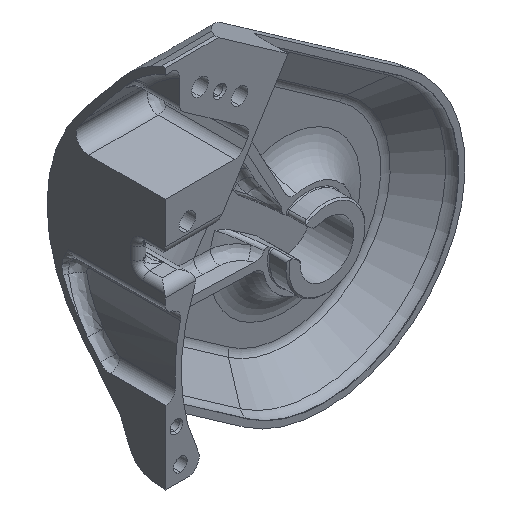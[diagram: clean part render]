
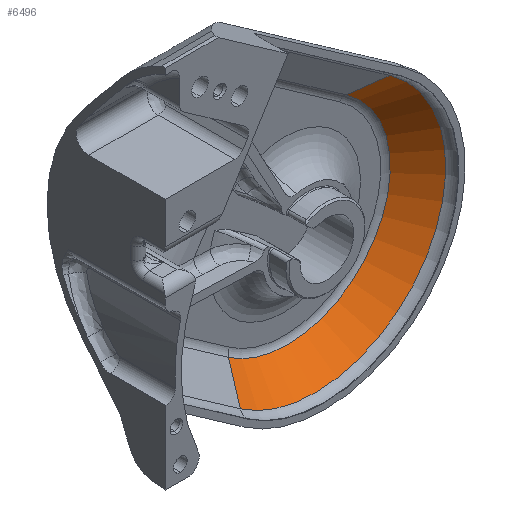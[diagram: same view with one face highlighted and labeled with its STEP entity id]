
A CAD part, isometric view. The second image highlights one B-rep face of the part: STEP entity #6496.
In plain terms, the highlighted conical face has half-angle 45 degrees and reference radius 36.914 mm.
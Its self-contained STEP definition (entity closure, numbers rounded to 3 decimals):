
#1950=CARTESIAN_POINT('',(126.,40.093,-94.));
#1951=DIRECTION('',(0.,-1.,0.));
#1952=DIRECTION('',(-0.574,0.,-0.819));
#1953=AXIS2_PLACEMENT_3D('',#1950,#1951,#1952);
#1955=CARTESIAN_POINT('',(126.,40.093,-94.));
#1956=DIRECTION('',(0.,-1.,0.));
#1957=DIRECTION('',(0.,0.,-1.));
#1958=AXIS2_PLACEMENT_3D('',#1955,#1956,#1957);
#2130=DIRECTION('',(0.406,0.707,0.579));
#2131=VECTOR('',#2130,12.414);
#2132=CARTESIAN_POINT('',(102.309,40.093,-127.834));
#2133=LINE('',#2132,#2131);
#2134=DIRECTION('',(0.406,-0.707,0.579));
#2135=VECTOR('',#2134,12.414);
#2136=CARTESIAN_POINT('',(144.656,48.871,-67.357));
#2137=LINE('',#2136,#2135);
#2365=CARTESIAN_POINT('',(126.,48.871,-94.));
#2366=DIRECTION('',(0.,1.,0.));
#2367=DIRECTION('',(0.574,0.,0.819));
#2368=AXIS2_PLACEMENT_3D('',#2365,#2366,#2367);
#2370=CARTESIAN_POINT('',(126.,48.871,-94.));
#2371=DIRECTION('',(0.,1.,0.));
#2372=DIRECTION('',(0.,0.,-1.));
#2373=AXIS2_PLACEMENT_3D('',#2370,#2371,#2372);
#3887=CARTESIAN_POINT('',(144.656,48.871,-67.357));
#3888=CARTESIAN_POINT('',(149.691,40.093,-60.166));
#3889=VERTEX_POINT('',#3887);
#3890=VERTEX_POINT('',#3888);
#3896=CARTESIAN_POINT('',(102.309,40.093,-127.834));
#3897=CARTESIAN_POINT('',(107.344,48.871,-120.643));
#3898=VERTEX_POINT('',#3896);
#3899=VERTEX_POINT('',#3897);
#3900=CARTESIAN_POINT('',(126.,48.871,-126.525));
#3901=VERTEX_POINT('',#3900);
#3902=CARTESIAN_POINT('',(126.,40.093,-135.303));
#3903=VERTEX_POINT('',#3902);
#6480=CARTESIAN_POINT('',(126.,44.482,-94.));
#6481=DIRECTION('',(0.,-1.,0.));
#6482=DIRECTION('',(0.,0.,-1.));
#6483=AXIS2_PLACEMENT_3D('',#6480,#6481,#6482);
#6484=CONICAL_SURFACE('',#6483,36.914,45.);
#6486=ORIENTED_EDGE('',*,*,#6485,.T.);
#6488=ORIENTED_EDGE('',*,*,#6487,.F.);
#6490=ORIENTED_EDGE('',*,*,#6489,.F.);
#6491=ORIENTED_EDGE('',*,*,#6465,.T.);
#6492=ORIENTED_EDGE('',*,*,#6209,.F.);
#6493=ORIENTED_EDGE('',*,*,#6207,.F.);
#6494=EDGE_LOOP('',(#6486,#6488,#6490,#6491,#6492,#6493));
#6495=FACE_OUTER_BOUND('',#6494,.F.);
#6496=ADVANCED_FACE('',(#6495),#6484,.F.);
#1954=CIRCLE('',#1953,41.303);
#1959=CIRCLE('',#1958,41.303);
#2369=CIRCLE('',#2368,32.525);
#2374=CIRCLE('',#2373,32.525);
#6207=EDGE_CURVE('',#3898,#3903,#1954,.T.);
#6209=EDGE_CURVE('',#3903,#3890,#1959,.T.);
#6465=EDGE_CURVE('',#3889,#3890,#2137,.T.);
#6485=EDGE_CURVE('',#3898,#3899,#2133,.T.);
#6487=EDGE_CURVE('',#3901,#3899,#2374,.T.);
#6489=EDGE_CURVE('',#3889,#3901,#2369,.T.);
